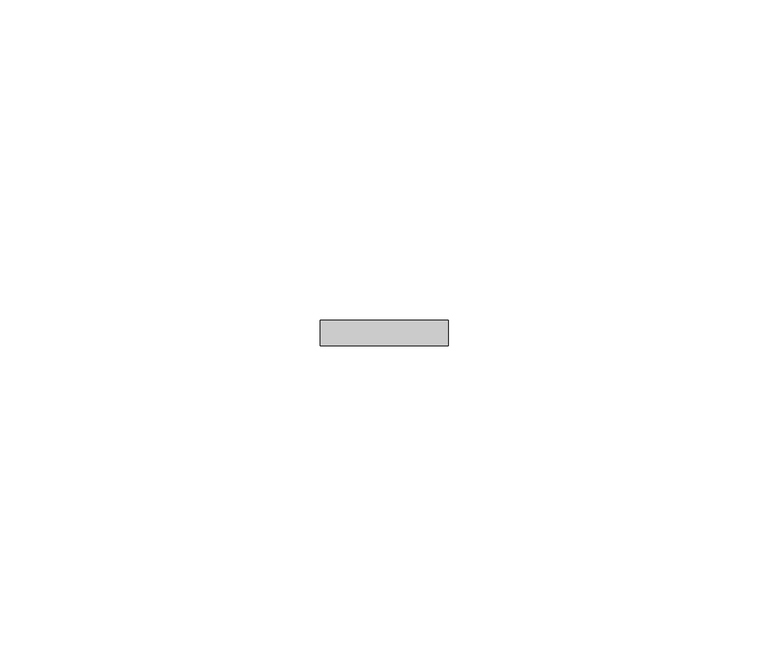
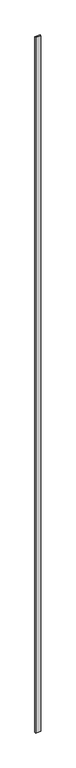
"""IFC4 building model written with IfcOpenShell, lengths in millimetres: plate geometry, Panel Flex Woodline : Panel Flex Woodline."""

from ifc_helpers import new_model, si_unit, origin, origin_with_axes, place, context, project, spatial, polyline, outline, extrude, source, transform, mapped, element, save


def plate_30c6cda6(model_context):
    return source(origin(), model_context, "Body", "SweptSolid", [
        extrude(outline(polyline([(-10.0, 19.5), (10.0, 19.5), (10.0, 15.5), (-10.0, 15.5), (-10.0, 19.5)])), origin_with_axes(), (0.0, 0.0, 1.0), 2800.0),
    ])


if __name__ == "__main__":
    model = new_model("IFC4")
    model_context = context("Model", 3, world=origin())
    ifc_project = project(units=[si_unit("LENGTHUNIT", "METRE", prefix="MILLI")], contexts=[model_context])
    site = spatial("IfcSite", under=ifc_project)
    building = spatial("IfcBuilding", under=site)
    placement = place(None, origin())
    plate_shape = plate_30c6cda6(model_context)
    element("IfcPlate", 1, ObjectType="Panel Flex Woodline : Panel Flex Woodline", at=placement, inside=building, context=model_context, shape_type="MappedRepresentation", body=[
        mapped(plate_shape, transform((0.0, 0.0, 0.0), x_axis=(1.0, 0.0, 0.0), y_axis=(0.0, 1.0, 0.0), z_axis=(0.0, 0.0, 1.0))),
    ])
    save(model, "model.ifc")
